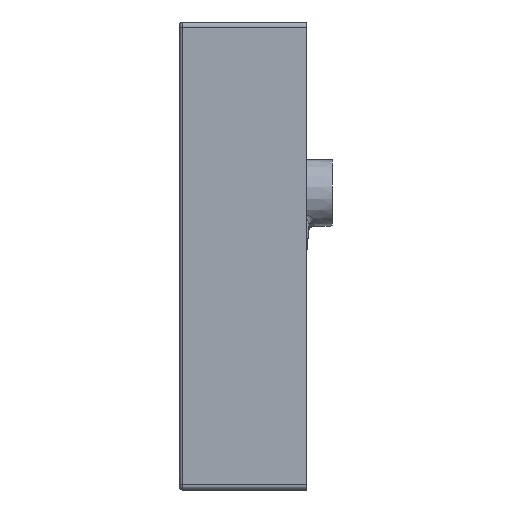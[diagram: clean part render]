
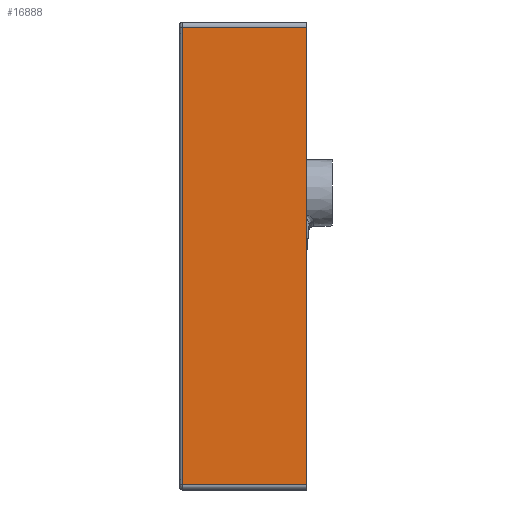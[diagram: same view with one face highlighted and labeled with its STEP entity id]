
A CAD part, left-side view. The second image highlights one B-rep face of the part: STEP entity #16888.
In plain terms, the highlighted planar face has unit normal (-1, 0, 0).
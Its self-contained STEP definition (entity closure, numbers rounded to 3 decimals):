
#543 = CARTESIAN_POINT ( 'NONE',  ( -352.5, -125., -292. ) ) ;
#1072 = VECTOR ( 'NONE', #14638, 1000. ) ;
#2157 = EDGE_CURVE ( 'NONE', #15164, #4234, #19723, .T. ) ;
#2227 = CARTESIAN_POINT ( 'NONE',  ( -352.5, -135., -287. ) ) ;
#2934 = DIRECTION ( 'NONE',  ( -1., 0., 0. ) ) ;
#3147 = DIRECTION ( 'NONE',  ( 0., 0., 1. ) ) ;
#3219 = CARTESIAN_POINT ( 'NONE',  ( -352.5, -3., -287. ) ) ;
#3220 = ORIENTED_EDGE ( 'NONE', *, *, #4524, .T. ) ;
#3472 = LINE ( 'NONE', #4259, #4268 ) ;
#4234 = VERTEX_POINT ( 'NONE', #13702 ) ;
#4259 = CARTESIAN_POINT ( 'NONE',  ( -352.5, -3., -287. ) ) ;
#4268 = VECTOR ( 'NONE', #17682, 1000. ) ;
#4524 = EDGE_CURVE ( 'NONE', #4234, #14857, #12162, .T. ) ;
#4657 = VECTOR ( 'NONE', #7097, 1000. ) ;
#4942 = CARTESIAN_POINT ( 'NONE',  ( -352.5, -125., -287. ) ) ;
#5065 = VECTOR ( 'NONE', #10738, 1000. ) ;
#7097 = DIRECTION ( 'NONE',  ( 0., 0., 1. ) ) ;
#7660 = LINE ( 'NONE', #2227, #5065 ) ;
#7855 = PLANE ( 'NONE',  #10340 ) ;
#8092 = CARTESIAN_POINT ( 'NONE',  ( -352.5, -135., 163. ) ) ;
#9024 = ORIENTED_EDGE ( 'NONE', *, *, #2157, .T. ) ;
#10340 = AXIS2_PLACEMENT_3D ( 'NONE', #12858, #2934, #3147 ) ;
#10738 = DIRECTION ( 'NONE',  ( 0., -1., 0. ) ) ;
#10949 = ORIENTED_EDGE ( 'NONE', *, *, #13359, .T. ) ;
#11246 = EDGE_CURVE ( 'NONE', #17040, #15164, #7660, .T. ) ;
#12162 = LINE ( 'NONE', #8092, #1072 ) ;
#12473 = CARTESIAN_POINT ( 'NONE',  ( -352.5, -3., 163. ) ) ;
#12858 = CARTESIAN_POINT ( 'NONE',  ( -352.5, -135., -292. ) ) ;
#13359 = EDGE_CURVE ( 'NONE', #14857, #17040, #3472, .T. ) ;
#13702 = CARTESIAN_POINT ( 'NONE',  ( -352.5, -125., 163. ) ) ;
#14638 = DIRECTION ( 'NONE',  ( 0., 1., 0. ) ) ;
#14857 = VERTEX_POINT ( 'NONE', #12473 ) ;
#15164 = VERTEX_POINT ( 'NONE', #4942 ) ;
#15207 = EDGE_LOOP ( 'NONE', ( #3220, #10949, #20715, #9024 ) ) ;
#15672 = FACE_OUTER_BOUND ( 'NONE', #15207, .T. ) ;
#16888 = ADVANCED_FACE ( 'NONE', ( #15672 ), #7855, .T. ) ;
#17040 = VERTEX_POINT ( 'NONE', #3219 ) ;
#17682 = DIRECTION ( 'NONE',  ( 0., 0., -1. ) ) ;
#19723 = LINE ( 'NONE', #543, #4657 ) ;
#20715 = ORIENTED_EDGE ( 'NONE', *, *, #11246, .T. ) ;
